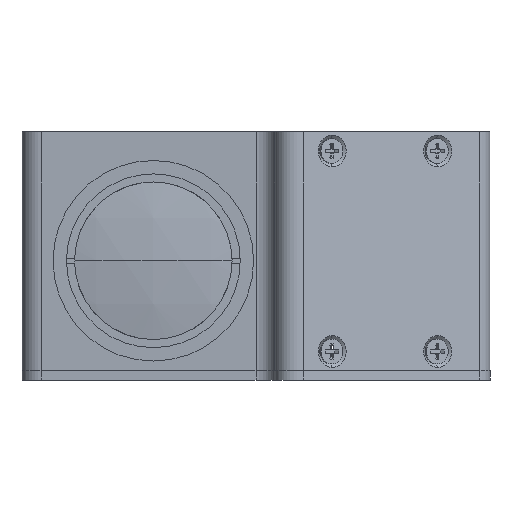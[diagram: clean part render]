
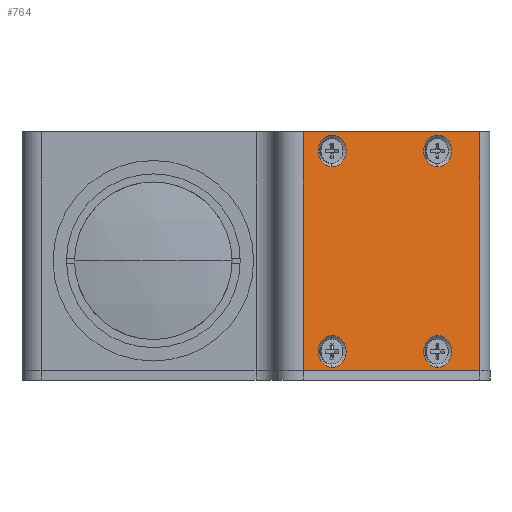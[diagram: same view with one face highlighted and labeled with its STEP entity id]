
A CAD part, left-side view. The second image highlights one B-rep face of the part: STEP entity #764.
In plain terms, the highlighted planar face has unit normal (-0.883, -0.469, 0).
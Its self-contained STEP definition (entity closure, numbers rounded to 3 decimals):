
#196 = ORIENTED_EDGE ( 'NONE', *, *, #12610, .F. ) ;
#295 = CARTESIAN_POINT ( 'NONE',  ( 44.651, -31.348, -23. ) ) ;
#578 = CARTESIAN_POINT ( 'NONE',  ( 47.909, -37.475, 19.7 ) ) ;
#615 = DIRECTION ( 'NONE',  ( 0., 0., 1. ) ) ;
#764 = ADVANCED_FACE ( 'NONE', ( #8872, #2736, #11528, #8511, #3108 ), #14340, .T. ) ;
#852 = AXIS2_PLACEMENT_3D ( 'NONE', #10098, #3232, #11244 ) ;
#1274 = CARTESIAN_POINT ( 'NONE',  ( 59.646, -59.548, 23. ) ) ;
#1396 = VERTEX_POINT ( 'NONE', #295 ) ;
#1674 = CIRCLE ( 'NONE', #8981, 3.3 ) ;
#1784 = VERTEX_POINT ( 'NONE', #9187 ) ;
#1962 = VERTEX_POINT ( 'NONE', #5031 ) ;
#1966 = CARTESIAN_POINT ( 'NONE',  ( 44.651, -31.348, 2. ) ) ;
#2497 = DIRECTION ( 'NONE',  ( 0., 0., 1. ) ) ;
#2547 = EDGE_LOOP ( 'NONE', ( #4789, #13389 ) ) ;
#2611 = CIRCLE ( 'NONE', #8098, 3.3 ) ;
#2621 = ORIENTED_EDGE ( 'NONE', *, *, #10559, .F. ) ;
#2647 = CARTESIAN_POINT ( 'NONE',  ( 47.909, -37.475, -19. ) ) ;
#2736 = FACE_BOUND ( 'NONE', #13419, .T. ) ;
#3108 = FACE_OUTER_BOUND ( 'NONE', #7412, .T. ) ;
#3232 = DIRECTION ( 'NONE',  ( -0.883, -0.469, 0. ) ) ;
#3370 = CIRCLE ( 'NONE', #13434, 3.3 ) ;
#3382 = CARTESIAN_POINT ( 'NONE',  ( 47.909, -37.475, -19. ) ) ;
#3679 = ORIENTED_EDGE ( 'NONE', *, *, #11088, .T. ) ;
#3837 = DIRECTION ( 'NONE',  ( 0., 0., 1. ) ) ;
#4192 = DIRECTION ( 'NONE',  ( -0.883, -0.469, 0. ) ) ;
#4335 = ORIENTED_EDGE ( 'NONE', *, *, #12701, .F. ) ;
#4513 = CARTESIAN_POINT ( 'NONE',  ( 59.646, -59.548, -22.3 ) ) ;
#4562 = DIRECTION ( 'NONE',  ( 0., 0., 1. ) ) ;
#4714 = CARTESIAN_POINT ( 'NONE',  ( 59.646, -59.548, -15.7 ) ) ;
#4744 = VERTEX_POINT ( 'NONE', #6891 ) ;
#4789 = ORIENTED_EDGE ( 'NONE', *, *, #12764, .F. ) ;
#4852 = LINE ( 'NONE', #5234, #7881 ) ;
#5031 = CARTESIAN_POINT ( 'NONE',  ( 59.646, -59.548, 19.7 ) ) ;
#5234 = CARTESIAN_POINT ( 'NONE',  ( 67.582, -74.473, 27. ) ) ;
#5312 = CARTESIAN_POINT ( 'NONE',  ( 54.554, -49.971, 2. ) ) ;
#5383 = CARTESIAN_POINT ( 'NONE',  ( 67.582, -74.473, -23. ) ) ;
#5508 = DIRECTION ( 'NONE',  ( -0.883, -0.469, 0. ) ) ;
#5793 = CARTESIAN_POINT ( 'NONE',  ( 59.646, -59.548, -19. ) ) ;
#5799 = VERTEX_POINT ( 'NONE', #4714 ) ;
#5901 = CIRCLE ( 'NONE', #852, 3.3 ) ;
#5988 = AXIS2_PLACEMENT_3D ( 'NONE', #11026, #4192, #12148 ) ;
#6125 = DIRECTION ( 'NONE',  ( 0., 0., 1. ) ) ;
#6179 = EDGE_LOOP ( 'NONE', ( #196, #7024 ) ) ;
#6454 = CARTESIAN_POINT ( 'NONE',  ( 47.909, -37.475, -15.7 ) ) ;
#6484 = CARTESIAN_POINT ( 'NONE',  ( 64.341, -68.378, -23. ) ) ;
#6565 = AXIS2_PLACEMENT_3D ( 'NONE', #5312, #7626, #615 ) ;
#6883 = VERTEX_POINT ( 'NONE', #14765 ) ;
#6891 = CARTESIAN_POINT ( 'NONE',  ( 44.651, -31.348, 27. ) ) ;
#6957 = DIRECTION ( 'NONE',  ( 0., 0., 1. ) ) ;
#6988 = AXIS2_PLACEMENT_3D ( 'NONE', #2647, #10683, #3837 ) ;
#7013 = CARTESIAN_POINT ( 'NONE',  ( 59.646, -59.548, -19. ) ) ;
#7024 = ORIENTED_EDGE ( 'NONE', *, *, #10708, .F. ) ;
#7137 = CIRCLE ( 'NONE', #5988, 3.3 ) ;
#7264 = ORIENTED_EDGE ( 'NONE', *, *, #12227, .F. ) ;
#7412 = EDGE_LOOP ( 'NONE', ( #7264, #13257, #9308, #3679 ) ) ;
#7508 = CARTESIAN_POINT ( 'NONE',  ( 64.341, -68.378, 27. ) ) ;
#7626 = DIRECTION ( 'NONE',  ( -0.883, -0.469, 0. ) ) ;
#7737 = ORIENTED_EDGE ( 'NONE', *, *, #12522, .F. ) ;
#7881 = VECTOR ( 'NONE', #14263, 1000. ) ;
#8098 = AXIS2_PLACEMENT_3D ( 'NONE', #5793, #13716, #6957 ) ;
#8135 = VERTEX_POINT ( 'NONE', #12591 ) ;
#8151 = DIRECTION ( 'NONE',  ( 0., 0., 1. ) ) ;
#8378 = LINE ( 'NONE', #1966, #13996 ) ;
#8511 = FACE_BOUND ( 'NONE', #10209, .T. ) ;
#8872 = FACE_BOUND ( 'NONE', #2547, .T. ) ;
#8981 = AXIS2_PLACEMENT_3D ( 'NONE', #12314, #5508, #13421 ) ;
#9086 = ORIENTED_EDGE ( 'NONE', *, *, #10927, .F. ) ;
#9187 = CARTESIAN_POINT ( 'NONE',  ( 47.909, -37.475, 26.3 ) ) ;
#9308 = ORIENTED_EDGE ( 'NONE', *, *, #12122, .F. ) ;
#9408 = DIRECTION ( 'NONE',  ( -0.883, -0.469, 0. ) ) ;
#9493 = VECTOR ( 'NONE', #12229, 1000. ) ;
#9637 = CIRCLE ( 'NONE', #6988, 3.3 ) ;
#10098 = CARTESIAN_POINT ( 'NONE',  ( 47.909, -37.475, 23. ) ) ;
#10187 = CIRCLE ( 'NONE', #13803, 3.3 ) ;
#10209 = EDGE_LOOP ( 'NONE', ( #7737, #9086 ) ) ;
#10282 = VERTEX_POINT ( 'NONE', #6454 ) ;
#10417 = EDGE_CURVE ( 'NONE', #1962, #8135, #1674, .T. ) ;
#10559 = EDGE_CURVE ( 'NONE', #14450, #5799, #2611, .T. ) ;
#10683 = DIRECTION ( 'NONE',  ( -0.883, -0.469, 0. ) ) ;
#10708 = EDGE_CURVE ( 'NONE', #6883, #10282, #9637, .T. ) ;
#10917 = VECTOR ( 'NONE', #6125, 1000. ) ;
#10927 = EDGE_CURVE ( 'NONE', #13594, #1784, #7137, .T. ) ;
#11026 = CARTESIAN_POINT ( 'NONE',  ( 47.909, -37.475, 23. ) ) ;
#11088 = EDGE_CURVE ( 'NONE', #4744, #1396, #8378, .T. ) ;
#11194 = DIRECTION ( 'NONE',  ( 0., 0., -1. ) ) ;
#11244 = DIRECTION ( 'NONE',  ( 0., 0., 1. ) ) ;
#11260 = CIRCLE ( 'NONE', #14725, 3.3 ) ;
#11371 = DIRECTION ( 'NONE',  ( -0.883, -0.469, 0. ) ) ;
#11528 = FACE_BOUND ( 'NONE', #6179, .T. ) ;
#11789 = CARTESIAN_POINT ( 'NONE',  ( 64.341, -68.378, 2. ) ) ;
#12099 = EDGE_CURVE ( 'NONE', #13076, #14808, #14214, .T. ) ;
#12122 = EDGE_CURVE ( 'NONE', #4744, #14808, #4852, .T. ) ;
#12131 = LINE ( 'NONE', #5383, #9493 ) ;
#12148 = DIRECTION ( 'NONE',  ( 0., 0., 1. ) ) ;
#12227 = EDGE_CURVE ( 'NONE', #13076, #1396, #12131, .T. ) ;
#12229 = DIRECTION ( 'NONE',  ( -0.469, 0.883, 0. ) ) ;
#12314 = CARTESIAN_POINT ( 'NONE',  ( 59.646, -59.548, 23. ) ) ;
#12522 = EDGE_CURVE ( 'NONE', #1784, #13594, #5901, .T. ) ;
#12591 = CARTESIAN_POINT ( 'NONE',  ( 59.646, -59.548, 26.3 ) ) ;
#12610 = EDGE_CURVE ( 'NONE', #10282, #6883, #11260, .T. ) ;
#12701 = EDGE_CURVE ( 'NONE', #5799, #14450, #10187, .T. ) ;
#12764 = EDGE_CURVE ( 'NONE', #8135, #1962, #3370, .T. ) ;
#13076 = VERTEX_POINT ( 'NONE', #6484 ) ;
#13257 = ORIENTED_EDGE ( 'NONE', *, *, #12099, .T. ) ;
#13389 = ORIENTED_EDGE ( 'NONE', *, *, #10417, .F. ) ;
#13419 = EDGE_LOOP ( 'NONE', ( #4335, #2621 ) ) ;
#13421 = DIRECTION ( 'NONE',  ( 0., 0., 1. ) ) ;
#13434 = AXIS2_PLACEMENT_3D ( 'NONE', #1274, #9408, #2497 ) ;
#13594 = VERTEX_POINT ( 'NONE', #578 ) ;
#13716 = DIRECTION ( 'NONE',  ( -0.883, -0.469, 0. ) ) ;
#13803 = AXIS2_PLACEMENT_3D ( 'NONE', #7013, #14872, #8151 ) ;
#13996 = VECTOR ( 'NONE', #11194, 1000. ) ;
#14214 = LINE ( 'NONE', #11789, #10917 ) ;
#14263 = DIRECTION ( 'NONE',  ( 0.469, -0.883, 0. ) ) ;
#14340 = PLANE ( 'NONE',  #6565 ) ;
#14450 = VERTEX_POINT ( 'NONE', #4513 ) ;
#14725 = AXIS2_PLACEMENT_3D ( 'NONE', #3382, #11371, #4562 ) ;
#14765 = CARTESIAN_POINT ( 'NONE',  ( 47.909, -37.475, -22.3 ) ) ;
#14808 = VERTEX_POINT ( 'NONE', #7508 ) ;
#14872 = DIRECTION ( 'NONE',  ( -0.883, -0.469, 0. ) ) ;
